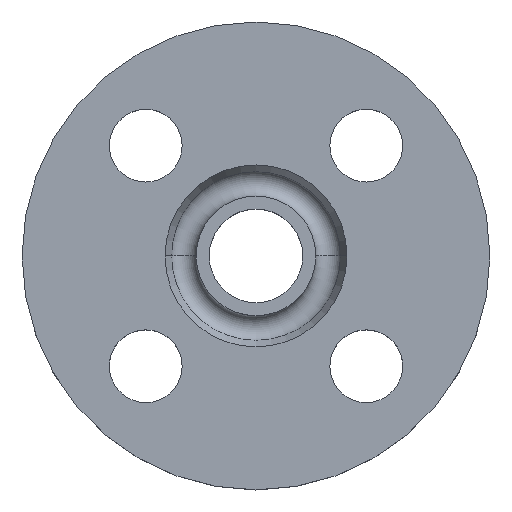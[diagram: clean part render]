
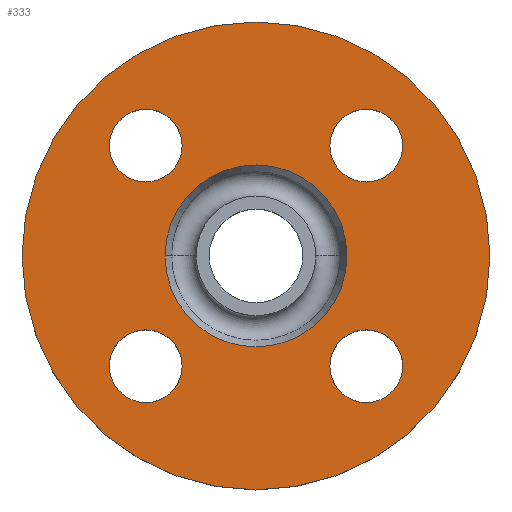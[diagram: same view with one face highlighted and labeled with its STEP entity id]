
A CAD part, top view. The second image highlights one B-rep face of the part: STEP entity #333.
In plain terms, the highlighted planar face has unit normal (0, 0, 1).
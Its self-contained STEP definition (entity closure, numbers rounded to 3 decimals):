
#15 = CIRCLE ( 'NONE', #314, 45. ) ;
#44 = DIRECTION ( 'NONE',  ( 0., 0., -1. ) ) ;
#45 = DIRECTION ( 'NONE',  ( -1., 0., 0. ) ) ;
#50 = CARTESIAN_POINT ( 'NONE',  ( -14.213, -21.213, -2. ) ) ;
#51 = CARTESIAN_POINT ( 'NONE',  ( 0., 0., -2. ) ) ;
#62 = CARTESIAN_POINT ( 'NONE',  ( 14.213, -21.213, -2. ) ) ;
#75 = CARTESIAN_POINT ( 'NONE',  ( -17.5, 0., -2. ) ) ;
#76 = AXIS2_PLACEMENT_3D ( 'NONE', #235, #184, #234 ) ;
#77 = CIRCLE ( 'NONE', #430, 17.5 ) ;
#81 = AXIS2_PLACEMENT_3D ( 'NONE', #284, #197, #180 ) ;
#83 = CARTESIAN_POINT ( 'NONE',  ( -28.213, -21.213, -2. ) ) ;
#84 = CIRCLE ( 'NONE', #76, 17.5 ) ;
#88 = AXIS2_PLACEMENT_3D ( 'NONE', #394, #396, #397 ) ;
#102 = DIRECTION ( 'NONE',  ( 1., 0., 0. ) ) ;
#103 = DIRECTION ( 'NONE',  ( 0., 0., -1. ) ) ;
#104 = CARTESIAN_POINT ( 'NONE',  ( 21.213, 21.213, -2. ) ) ;
#125 = CARTESIAN_POINT ( 'NONE',  ( 14.213, 21.213, -2. ) ) ;
#143 = CARTESIAN_POINT ( 'NONE',  ( 17.5, 0., -2. ) ) ;
#155 = AXIS2_PLACEMENT_3D ( 'NONE', #470, #471, #472 ) ;
#156 = AXIS2_PLACEMENT_3D ( 'NONE', #461, #462, #463 ) ;
#159 = CARTESIAN_POINT ( 'NONE',  ( -14.213, 21.213, -2. ) ) ;
#171 = CIRCLE ( 'NONE', #155, 7. ) ;
#180 = DIRECTION ( 'NONE',  ( 1., 0., 0. ) ) ;
#182 = CARTESIAN_POINT ( 'NONE',  ( 28.213, 21.213, -2. ) ) ;
#184 = DIRECTION ( 'NONE',  ( 0., 0., -1. ) ) ;
#197 = DIRECTION ( 'NONE',  ( 0., 0., -1. ) ) ;
#204 = EDGE_CURVE ( 'NONE', #496, #558, #255, .T. ) ;
#217 = CARTESIAN_POINT ( 'NONE',  ( -21.213, -21.213, -2. ) ) ;
#223 = CARTESIAN_POINT ( 'NONE',  ( -28.213, 21.213, -2. ) ) ;
#230 = AXIS2_PLACEMENT_3D ( 'NONE', #813, #815, #816 ) ;
#234 = DIRECTION ( 'NONE',  ( -1., 0., 0. ) ) ;
#235 = CARTESIAN_POINT ( 'NONE',  ( 0., 0., -2. ) ) ;
#239 = EDGE_CURVE ( 'NONE', #508, #646, #264, .T. ) ;
#241 = DIRECTION ( 'NONE',  ( 0., 0., -1. ) ) ;
#247 = CARTESIAN_POINT ( 'NONE',  ( 28.213, -21.213, -2. ) ) ;
#250 = DIRECTION ( 'NONE',  ( 1., 0., 0. ) ) ;
#255 = CIRCLE ( 'NONE', #307, 45. ) ;
#257 = DIRECTION ( 'NONE',  ( -1., 0., 0. ) ) ;
#264 = CIRCLE ( 'NONE', #230, 7. ) ;
#267 = AXIS2_PLACEMENT_3D ( 'NONE', #217, #241, #250 ) ;
#278 = CIRCLE ( 'NONE', #388, 7. ) ;
#279 = CARTESIAN_POINT ( 'NONE',  ( -45., 0., -2. ) ) ;
#284 = CARTESIAN_POINT ( 'NONE',  ( 21.213, 21.213, -2. ) ) ;
#306 = CARTESIAN_POINT ( 'NONE',  ( 0., 0., -2. ) ) ;
#307 = AXIS2_PLACEMENT_3D ( 'NONE', #769, #770, #771 ) ;
#314 = AXIS2_PLACEMENT_3D ( 'NONE', #306, #481, #257 ) ;
#321 = CIRCLE ( 'NONE', #81, 7. ) ;
#325 = CIRCLE ( 'NONE', #156, 7. ) ;
#333 = ADVANCED_FACE ( 'NONE', ( #376, #381, #385, #387, #390, #392 ), #393, .T. ) ;
#335 = CIRCLE ( 'NONE', #267, 7. ) ;
#375 = EDGE_CURVE ( 'NONE', #574, #494, #278, .T. ) ;
#376 = FACE_BOUND ( 'NONE', #562, .T. ) ;
#377 = CIRCLE ( 'NONE', #384, 7. ) ;
#381 = FACE_BOUND ( 'NONE', #569, .T. ) ;
#384 = AXIS2_PLACEMENT_3D ( 'NONE', #417, #419, #420 ) ;
#385 = FACE_BOUND ( 'NONE', #634, .T. ) ;
#386 = EDGE_CURVE ( 'NONE', #647, #711, #377, .T. ) ;
#387 = FACE_BOUND ( 'NONE', #570, .T. ) ;
#388 = AXIS2_PLACEMENT_3D ( 'NONE', #410, #411, #412 ) ;
#390 = FACE_BOUND ( 'NONE', #498, .T. ) ;
#392 = FACE_OUTER_BOUND ( 'NONE', #547, .T. ) ;
#393 = PLANE ( 'NONE',  #88 ) ;
#394 = CARTESIAN_POINT ( 'NONE',  ( 45., 0., -2. ) ) ;
#396 = DIRECTION ( 'NONE',  ( 0., 0., 1. ) ) ;
#397 = DIRECTION ( 'NONE',  ( 1., 0., 0. ) ) ;
#407 = EDGE_CURVE ( 'NONE', #494, #574, #325, .T. ) ;
#410 = CARTESIAN_POINT ( 'NONE',  ( -21.213, 21.213, -2. ) ) ;
#411 = DIRECTION ( 'NONE',  ( 0., 0., -1. ) ) ;
#412 = DIRECTION ( 'NONE',  ( 1., 0., 0. ) ) ;
#417 = CARTESIAN_POINT ( 'NONE',  ( -21.213, -21.213, -2. ) ) ;
#419 = DIRECTION ( 'NONE',  ( 0., 0., -1. ) ) ;
#420 = DIRECTION ( 'NONE',  ( 1., 0., 0. ) ) ;
#427 = EDGE_CURVE ( 'NONE', #646, #508, #171, .T. ) ;
#430 = AXIS2_PLACEMENT_3D ( 'NONE', #51, #44, #45 ) ;
#461 = CARTESIAN_POINT ( 'NONE',  ( -21.213, 21.213, -2. ) ) ;
#462 = DIRECTION ( 'NONE',  ( 0., 0., -1. ) ) ;
#463 = DIRECTION ( 'NONE',  ( 1., 0., 0. ) ) ;
#470 = CARTESIAN_POINT ( 'NONE',  ( 21.213, -21.213, -2. ) ) ;
#471 = DIRECTION ( 'NONE',  ( 0., 0., -1. ) ) ;
#472 = DIRECTION ( 'NONE',  ( 1., 0., 0. ) ) ;
#480 = CIRCLE ( 'NONE', #794, 7. ) ;
#481 = DIRECTION ( 'NONE',  ( 0., 0., -1. ) ) ;
#483 = EDGE_CURVE ( 'NONE', #604, #497, #321, .T. ) ;
#485 = EDGE_CURVE ( 'NONE', #715, #516, #84, .T. ) ;
#494 = VERTEX_POINT ( 'NONE', #223 ) ;
#496 = VERTEX_POINT ( 'NONE', #764 ) ;
#497 = VERTEX_POINT ( 'NONE', #182 ) ;
#498 = EDGE_LOOP ( 'NONE', ( #606, #608 ) ) ;
#508 = VERTEX_POINT ( 'NONE', #247 ) ;
#516 = VERTEX_POINT ( 'NONE', #143 ) ;
#517 = EDGE_CURVE ( 'NONE', #711, #647, #335, .T. ) ;
#539 = EDGE_CURVE ( 'NONE', #558, #496, #15, .T. ) ;
#547 = EDGE_LOOP ( 'NONE', ( #609, #610 ) ) ;
#558 = VERTEX_POINT ( 'NONE', #279 ) ;
#562 = EDGE_LOOP ( 'NONE', ( #595, #596 ) ) ;
#569 = EDGE_LOOP ( 'NONE', ( #597, #598 ) ) ;
#570 = EDGE_LOOP ( 'NONE', ( #603, #605 ) ) ;
#574 = VERTEX_POINT ( 'NONE', #159 ) ;
#595 = ORIENTED_EDGE ( 'NONE', *, *, #239, .T. ) ;
#596 = ORIENTED_EDGE ( 'NONE', *, *, #427, .T. ) ;
#597 = ORIENTED_EDGE ( 'NONE', *, *, #386, .T. ) ;
#598 = ORIENTED_EDGE ( 'NONE', *, *, #517, .T. ) ;
#599 = ORIENTED_EDGE ( 'NONE', *, *, #375, .T. ) ;
#600 = ORIENTED_EDGE ( 'NONE', *, *, #407, .T. ) ;
#603 = ORIENTED_EDGE ( 'NONE', *, *, #670, .T. ) ;
#604 = VERTEX_POINT ( 'NONE', #125 ) ;
#605 = ORIENTED_EDGE ( 'NONE', *, *, #483, .T. ) ;
#606 = ORIENTED_EDGE ( 'NONE', *, *, #785, .T. ) ;
#608 = ORIENTED_EDGE ( 'NONE', *, *, #485, .T. ) ;
#609 = ORIENTED_EDGE ( 'NONE', *, *, #204, .F. ) ;
#610 = ORIENTED_EDGE ( 'NONE', *, *, #539, .F. ) ;
#634 = EDGE_LOOP ( 'NONE', ( #599, #600 ) ) ;
#646 = VERTEX_POINT ( 'NONE', #62 ) ;
#647 = VERTEX_POINT ( 'NONE', #50 ) ;
#670 = EDGE_CURVE ( 'NONE', #497, #604, #480, .T. ) ;
#711 = VERTEX_POINT ( 'NONE', #83 ) ;
#715 = VERTEX_POINT ( 'NONE', #75 ) ;
#764 = CARTESIAN_POINT ( 'NONE',  ( 45., 0., -2. ) ) ;
#769 = CARTESIAN_POINT ( 'NONE',  ( 0., 0., -2. ) ) ;
#770 = DIRECTION ( 'NONE',  ( 0., 0., -1. ) ) ;
#771 = DIRECTION ( 'NONE',  ( -1., 0., 0. ) ) ;
#785 = EDGE_CURVE ( 'NONE', #516, #715, #77, .T. ) ;
#794 = AXIS2_PLACEMENT_3D ( 'NONE', #104, #103, #102 ) ;
#813 = CARTESIAN_POINT ( 'NONE',  ( 21.213, -21.213, -2. ) ) ;
#815 = DIRECTION ( 'NONE',  ( 0., 0., -1. ) ) ;
#816 = DIRECTION ( 'NONE',  ( 1., 0., 0. ) ) ;
